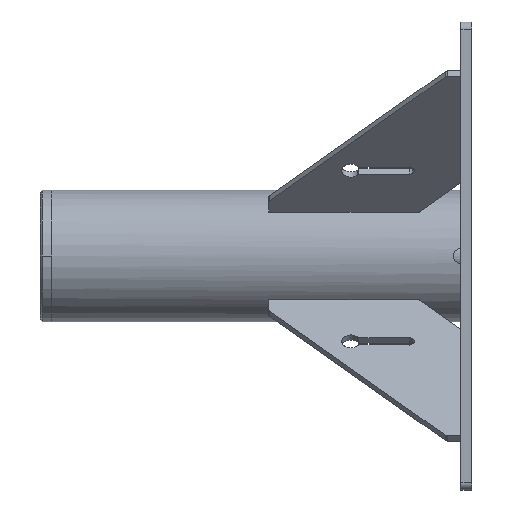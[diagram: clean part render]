
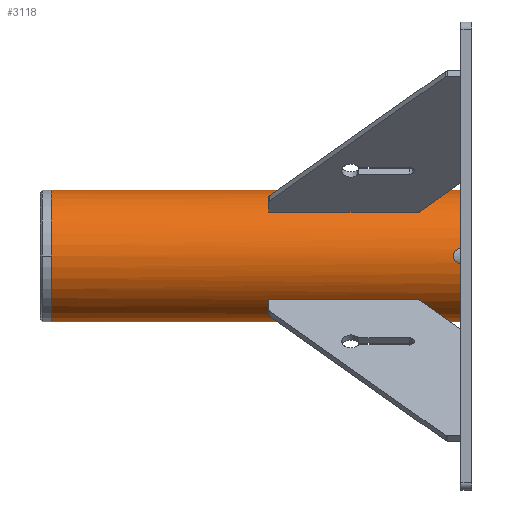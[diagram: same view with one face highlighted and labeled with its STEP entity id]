
A CAD part, left-side view. The second image highlights one B-rep face of the part: STEP entity #3118.
In plain terms, the highlighted cylindrical face has radius 57.15 mm (diameter 114.3 mm), a partial arc.
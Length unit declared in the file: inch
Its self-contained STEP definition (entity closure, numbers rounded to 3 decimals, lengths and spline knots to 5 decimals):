
#9 = CARTESIAN_POINT ( 'NONE',  ( 0., 14., -2.25 ) ) ;
#46 = DIRECTION ( 'NONE',  ( 0., 1., 0. ) ) ;
#75 = CARTESIAN_POINT ( 'NONE',  ( -2.24613, 0.21244, 0.13205 ) ) ;
#85 = VECTOR ( 'NONE', #2608, 39.37008 ) ;
#99 = CARTESIAN_POINT ( 'NONE',  ( -2.23997, 0.13234, 0.21226 ) ) ;
#129 = CARTESIAN_POINT ( 'NONE',  ( -2.24862, 0.23729, 0.08037 ) ) ;
#185 = CARTESIAN_POINT ( 'NONE',  ( 0., 14., 2.25 ) ) ;
#387 = VERTEX_POINT ( 'NONE', #466 ) ;
#411 = CARTESIAN_POINT ( 'NONE',  ( -2.24397, 0.18855, 0.16498 ) ) ;
#430 = CARTESIAN_POINT ( 'NONE',  ( -2.23607, 0., -0.25 ) ) ;
#434 = VERTEX_POINT ( 'NONE', #1922 ) ;
#452 = ORIENTED_EDGE ( 'NONE', *, *, #1008, .F. ) ;
#466 = CARTESIAN_POINT ( 'NONE',  ( 0., 0., -2.25 ) ) ;
#486 = VERTEX_POINT ( 'NONE', #3592 ) ;
#498 = CARTESIAN_POINT ( 'NONE',  ( -2.23696, 0.06512, 0.24192 ) ) ;
#513 = DIRECTION ( 'NONE',  ( 0., 1., 0. ) ) ;
#579 = EDGE_CURVE ( 'NONE', #486, #3600, #3536, .T. ) ;
#647 = CARTESIAN_POINT ( 'NONE',  ( -2.23677, 0.05675, -0.24361 ) ) ;
#670 = CARTESIAN_POINT ( 'NONE',  ( -2.24653, 0.21663, 0.12505 ) ) ;
#689 = CARTESIAN_POINT ( 'NONE',  ( -2.24929, 0.24357, -0.05693 ) ) ;
#765 = LINE ( 'NONE', #1722, #2591 ) ;
#791 = CARTESIAN_POINT ( 'NONE',  ( 0., 14., 0. ) ) ;
#840 = AXIS2_PLACEMENT_3D ( 'NONE', #1185, #46, #3587 ) ;
#921 = EDGE_CURVE ( 'NONE', #1879, #387, #2556, .T. ) ;
#962 = CARTESIAN_POINT ( 'NONE',  ( -2.24729, 0.22437, 0.11058 ) ) ;
#966 = AXIS2_PLACEMENT_3D ( 'NONE', #2943, #513, #2661 ) ;
#1003 = CARTESIAN_POINT ( 'NONE',  ( -2.2388, 0.11089, 0.22421 ) ) ;
#1008 = EDGE_CURVE ( 'NONE', #2100, #3600, #765, .T. ) ;
#1020 = CARTESIAN_POINT ( 'NONE',  ( -2.24395, 0.1883, -0.16525 ) ) ;
#1040 = CARTESIAN_POINT ( 'NONE',  ( -2.23779, 0.08819, -0.23407 ) ) ;
#1058 = ORIENTED_EDGE ( 'NONE', *, *, #3224, .T. ) ;
#1137 = CARTESIAN_POINT ( 'NONE',  ( 0., 14., -2.25 ) ) ;
#1185 = CARTESIAN_POINT ( 'NONE',  ( 0., 0., 0. ) ) ;
#1228 = CIRCLE ( 'NONE', #840, 2.25 ) ;
#1260 = CARTESIAN_POINT ( 'NONE',  ( -2.25, 0.25001, 0.01614 ) ) ;
#1264 = EDGE_CURVE ( 'NONE', #434, #486, #2945, .T. ) ;
#1302 = CARTESIAN_POINT ( 'NONE',  ( -2.23957, 0.12535, 0.21646 ) ) ;
#1385 = CARTESIAN_POINT ( 'NONE',  ( -2.23607, 0.01653, 0.25 ) ) ;
#1550 = CARTESIAN_POINT ( 'NONE',  ( -2.24214, 0.16526, -0.18829 ) ) ;
#1568 = CARTESIAN_POINT ( 'NONE',  ( -2.24121, 0.15241, -0.19884 ) ) ;
#1586 = CARTESIAN_POINT ( 'NONE',  ( -2.24213, 0.16524, 0.18833 ) ) ;
#1722 = CARTESIAN_POINT ( 'NONE',  ( 0., 14., 2.25 ) ) ;
#1844 = CARTESIAN_POINT ( 'NONE',  ( -2.23953, 0.12524, -0.21698 ) ) ;
#1866 = CARTESIAN_POINT ( 'NONE',  ( -2.24488, 0.19888, 0.15236 ) ) ;
#1879 = VERTEX_POINT ( 'NONE', #9 ) ;
#1881 = CARTESIAN_POINT ( 'NONE',  ( -2.24729, 0.22432, -0.11068 ) ) ;
#1900 = CARTESIAN_POINT ( 'NONE',  ( -2.23625, 0.03278, -0.24838 ) ) ;
#1921 = CARTESIAN_POINT ( 'NONE',  ( -2.24799, 0.23128, -0.09595 ) ) ;
#1922 = CARTESIAN_POINT ( 'NONE',  ( -2.23607, 0., -0.25 ) ) ;
#1974 = CARTESIAN_POINT ( 'NONE',  ( -2.23626, 0.03307, 0.24834 ) ) ;
#1984 = DIRECTION ( 'NONE',  ( 0., -1., 0. ) ) ;
#2100 = VERTEX_POINT ( 'NONE', #185 ) ;
#2183 = CARTESIAN_POINT ( 'NONE',  ( -2.24653, 0.2166, -0.1251 ) ) ;
#2199 = CARTESIAN_POINT ( 'NONE',  ( -2.23844, 0.1034, 0.22776 ) ) ;
#2217 = CARTESIAN_POINT ( 'NONE',  ( -2.24612, 0.21235, -0.13219 ) ) ;
#2289 = AXIS2_PLACEMENT_3D ( 'NONE', #791, #1984, #3359 ) ;
#2336 = CARTESIAN_POINT ( 'NONE',  ( 0., 0., 2.25 ) ) ;
#2463 = CARTESIAN_POINT ( 'NONE',  ( -2.24912, 0.24201, 0.06478 ) ) ;
#2533 = CARTESIAN_POINT ( 'NONE',  ( -2.2375, 0.08039, -0.23687 ) ) ;
#2556 = LINE ( 'NONE', #1137, #85 ) ;
#2591 = VECTOR ( 'NONE', #2931, 39.37008 ) ;
#2608 = DIRECTION ( 'NONE',  ( 0., -1., 0. ) ) ;
#2634 = FACE_OUTER_BOUND ( 'NONE', #3027, .T. ) ;
#2661 = DIRECTION ( 'NONE',  ( 0., 0., 1. ) ) ;
#2755 = CARTESIAN_POINT ( 'NONE',  ( -2.24982, 0.24839, -0.03272 ) ) ;
#2775 = CARTESIAN_POINT ( 'NONE',  ( -2.24908, 0.24155, -0.06495 ) ) ;
#2795 = CARTESIAN_POINT ( 'NONE',  ( -2.24123, 0.15263, 0.19867 ) ) ;
#2833 = CARTESIAN_POINT ( 'NONE',  ( -2.24982, 0.24839, 0.03271 ) ) ;
#2931 = DIRECTION ( 'NONE',  ( 0., -1., 0. ) ) ;
#2943 = CARTESIAN_POINT ( 'NONE',  ( 0., 0., 0. ) ) ;
#2945 = B_SPLINE_CURVE_WITH_KNOTS ( 'NONE', 3,
 ( #430, #3668, #1900, #647, #3113, #2533, #1040, #3707, #1844, #1568, #1550, #1020, #3393, #2217, #2183, #1881, #1921, #3136, #2775, #689, #2755, #3374, #1260, #2833, #2463, #129, #3098, #962, #670, #75, #1866, #411, #1586, #2795, #99, #1302, #1003, #2199, #3412, #498, #1974, #1385, #3482 ),
 .UNSPECIFIED., .F., .F.,
 ( 4, 2, 2, 2, 2, 2, 2, 2, 1, 2, 2, 2, 2, 2, 2, 2, 2, 2, 2, 2, 2, 4 ),
 ( 0., 0.00124, 0.00186, 0.00248, 0.00372, 0.00497, 0.00621, 0.00683, 0.00745, 0.00807, 0.00869, 0.00993, 0.01117, 0.01241, 0.01304, 0.01366, 0.0149, 0.01614, 0.01676, 0.01738, 0.01862, 0.01986 ),
 .UNSPECIFIED. ) ;
#3027 = EDGE_LOOP ( 'NONE', ( #452, #3211, #3903, #1058, #3099, #3383 ) ) ;
#3098 = CARTESIAN_POINT ( 'NONE',  ( -2.24765, 0.22791, 0.10308 ) ) ;
#3099 = ORIENTED_EDGE ( 'NONE', *, *, #1264, .T. ) ;
#3113 = CARTESIAN_POINT ( 'NONE',  ( -2.23699, 0.06468, -0.24163 ) ) ;
#3118 = ADVANCED_FACE ( 'NONE', ( #2634 ), #3851, .T. ) ;
#3121 = CIRCLE ( 'NONE', #3377, 2.25 ) ;
#3136 = CARTESIAN_POINT ( 'NONE',  ( -2.24857, 0.23679, -0.08061 ) ) ;
#3211 = ORIENTED_EDGE ( 'NONE', *, *, #3292, .F. ) ;
#3224 = EDGE_CURVE ( 'NONE', #387, #434, #1228, .T. ) ;
#3292 = EDGE_CURVE ( 'NONE', #1879, #2100, #3121, .T. ) ;
#3296 = DIRECTION ( 'NONE',  ( 0., 0., 1. ) ) ;
#3339 = DIRECTION ( 'NONE',  ( 0., 1., 0. ) ) ;
#3359 = DIRECTION ( 'NONE',  ( 0., 0., -1. ) ) ;
#3374 = CARTESIAN_POINT ( 'NONE',  ( -2.25, 0.24999, -0.0165 ) ) ;
#3377 = AXIS2_PLACEMENT_3D ( 'NONE', #3568, #3339, #3296 ) ;
#3383 = ORIENTED_EDGE ( 'NONE', *, *, #579, .T. ) ;
#3393 = CARTESIAN_POINT ( 'NONE',  ( -2.24486, 0.19864, -0.15268 ) ) ;
#3412 = CARTESIAN_POINT ( 'NONE',  ( -2.23747, 0.0807, 0.23718 ) ) ;
#3482 = CARTESIAN_POINT ( 'NONE',  ( -2.23607, 0., 0.25 ) ) ;
#3536 = CIRCLE ( 'NONE', #966, 2.25 ) ;
#3568 = CARTESIAN_POINT ( 'NONE',  ( 0., 14., 0. ) ) ;
#3587 = DIRECTION ( 'NONE',  ( 0., 0., 1. ) ) ;
#3592 = CARTESIAN_POINT ( 'NONE',  ( -2.23607, 0., 0.25 ) ) ;
#3600 = VERTEX_POINT ( 'NONE', #2336 ) ;
#3668 = CARTESIAN_POINT ( 'NONE',  ( -2.23607, 0.01653, -0.25 ) ) ;
#3707 = CARTESIAN_POINT ( 'NONE',  ( -2.23876, 0.11089, -0.22466 ) ) ;
#3851 = CYLINDRICAL_SURFACE ( 'NONE', #2289, 2.25 ) ;
#3903 = ORIENTED_EDGE ( 'NONE', *, *, #921, .T. ) ;
